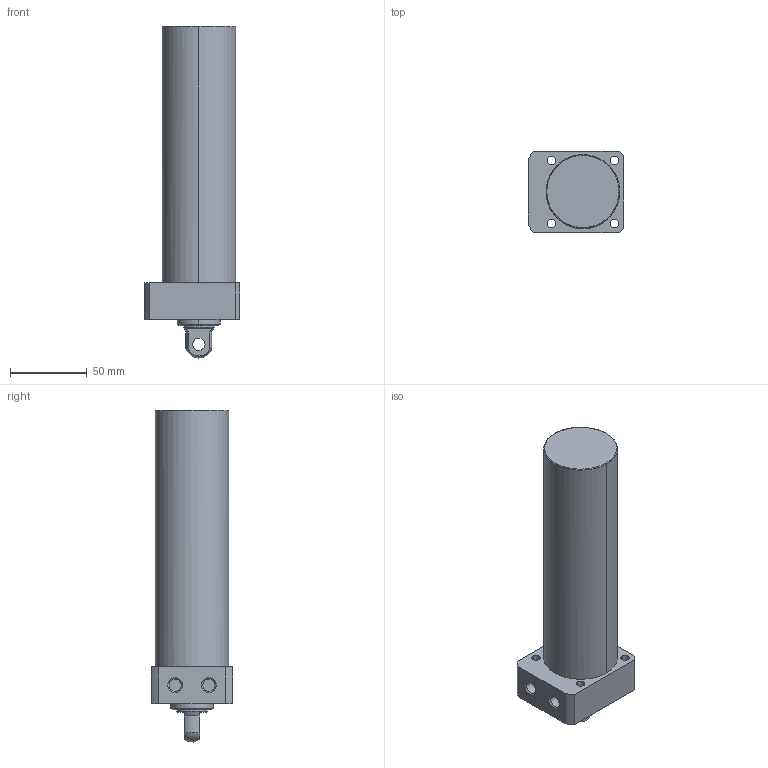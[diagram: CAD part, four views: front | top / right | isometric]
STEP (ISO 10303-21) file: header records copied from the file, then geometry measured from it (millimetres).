
FILE_DESCRIPTION((' '),'2;1');
FILE_NAME( 'TLLR-048CP-140.STEP.stp', '2025-10-24T16:34:41', (' '), ('--- Datakit www.datakit.com---'), ' Datakit CrossCadWare V2024.1 Dec 21 2023', 'Mastercam 2025', ' ');
FILE_SCHEMA(('AUTOMOTIVE_DESIGN { 1 0 10303 214 1 1 1 1 }'));
Length unit declared in the file: millimetre
Products named in the file (1): TLLR-048CP-140
Bounding box: 62 x 53 x 215.94 mm (x, y, z)
Volume: 381683.7 mm3; surface area: 40589.5 mm2
Topology: 1 solids, 1 shells, 57 faces, 164 edges, 116 vertices
Faces by surface type: cylinder 28, plane 18, cone 8, torus 2, sphere 1
Entity records: 2006 total; most frequent: DIRECTION 378, CARTESIAN_POINT 350, ORIENTED_EDGE 328, EDGE_CURVE 164, AXIS2_PLACEMENT_3D 160, VERTEX_POINT 116, CIRCLE 102, EDGE_LOOP 74
